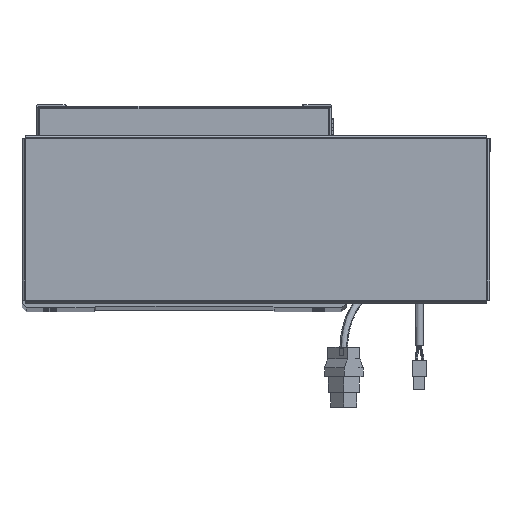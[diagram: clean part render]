
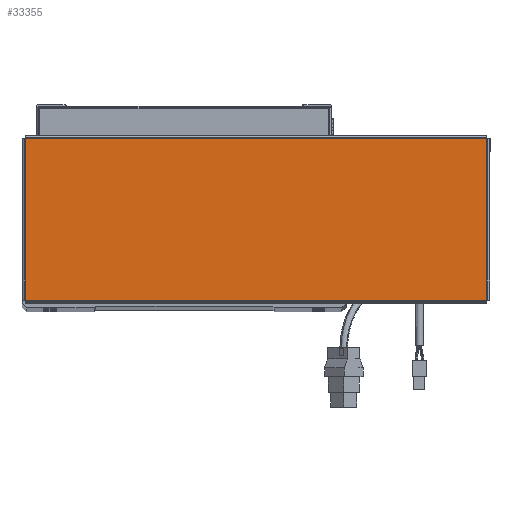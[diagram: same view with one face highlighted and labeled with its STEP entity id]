
A CAD part, top view. The second image highlights one B-rep face of the part: STEP entity #33355.
In plain terms, the highlighted planar face has unit normal (0, 0, 1).
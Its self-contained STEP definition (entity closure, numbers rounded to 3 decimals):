
#4541 = VECTOR ( 'NONE', #42924, 1000. ) ;
#4666 = ORIENTED_EDGE ( 'NONE', *, *, #40406, .T. ) ;
#6301 = CARTESIAN_POINT ( 'NONE',  ( 156.543, 54.763, 0. ) ) ;
#7248 = CARTESIAN_POINT ( 'NONE',  ( -156.513, -54.763, 0. ) ) ;
#8361 = VECTOR ( 'NONE', #15468, 1000. ) ;
#9563 = PLANE ( 'NONE',  #62430 ) ;
#10707 = VERTEX_POINT ( 'NONE', #7248 ) ;
#13047 = CARTESIAN_POINT ( 'NONE',  ( 156.513, -54.763, 0. ) ) ;
#13896 = LINE ( 'NONE', #24021, #64763 ) ;
#14565 = DIRECTION ( 'NONE',  ( 1., 0., 0. ) ) ;
#15373 = DIRECTION ( 'NONE',  ( 1., 0., 0. ) ) ;
#15468 = DIRECTION ( 'NONE',  ( 0., -1., 0. ) ) ;
#19732 = VERTEX_POINT ( 'NONE', #65088 ) ;
#19790 = CARTESIAN_POINT ( 'NONE',  ( 0., 0., 0. ) ) ;
#24021 = CARTESIAN_POINT ( 'NONE',  ( 156.513, -54.793, 0. ) ) ;
#24764 = ORIENTED_EDGE ( 'NONE', *, *, #61619, .T. ) ;
#24863 = DIRECTION ( 'NONE',  ( 0., 0., 1. ) ) ;
#27494 = LINE ( 'NONE', #41027, #62032 ) ;
#28397 = ORIENTED_EDGE ( 'NONE', *, *, #60349, .T. ) ;
#31982 = ORIENTED_EDGE ( 'NONE', *, *, #55683, .T. ) ;
#33355 = ADVANCED_FACE ( 'NONE', ( #55439 ), #9563, .T. ) ;
#36985 = CARTESIAN_POINT ( 'NONE',  ( -156.513, 54.793, 0. ) ) ;
#38992 = EDGE_LOOP ( 'NONE', ( #28397, #4666, #24764, #31982 ) ) ;
#40406 = EDGE_CURVE ( 'NONE', #67946, #19732, #13896, .T. ) ;
#40893 = CARTESIAN_POINT ( 'NONE',  ( -156.513, 54.763, 0. ) ) ;
#41027 = CARTESIAN_POINT ( 'NONE',  ( -156.543, -54.763, 0. ) ) ;
#42924 = DIRECTION ( 'NONE',  ( -1., 0., 0. ) ) ;
#46343 = LINE ( 'NONE', #6301, #4541 ) ;
#55439 = FACE_OUTER_BOUND ( 'NONE', #38992, .T. ) ;
#55526 = VERTEX_POINT ( 'NONE', #40893 ) ;
#55683 = EDGE_CURVE ( 'NONE', #55526, #10707, #59198, .T. ) ;
#59198 = LINE ( 'NONE', #36985, #8361 ) ;
#60349 = EDGE_CURVE ( 'NONE', #10707, #67946, #27494, .T. ) ;
#60754 = DIRECTION ( 'NONE',  ( 0., 1., 0. ) ) ;
#61619 = EDGE_CURVE ( 'NONE', #19732, #55526, #46343, .T. ) ;
#62032 = VECTOR ( 'NONE', #15373, 1000. ) ;
#62430 = AXIS2_PLACEMENT_3D ( 'NONE', #19790, #24863, #14565 ) ;
#64763 = VECTOR ( 'NONE', #60754, 1000. ) ;
#65088 = CARTESIAN_POINT ( 'NONE',  ( 156.513, 54.763, 0. ) ) ;
#67946 = VERTEX_POINT ( 'NONE', #13047 ) ;
